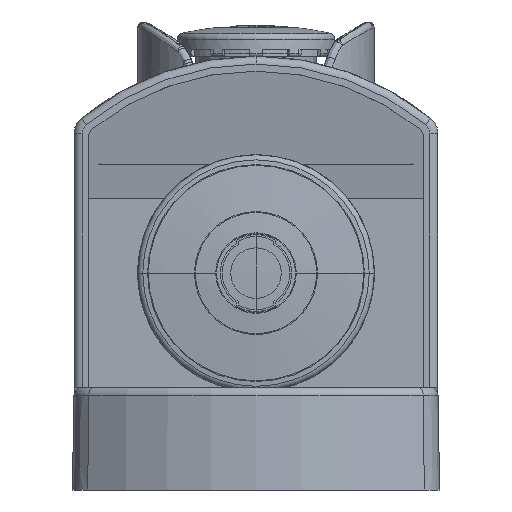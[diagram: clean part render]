
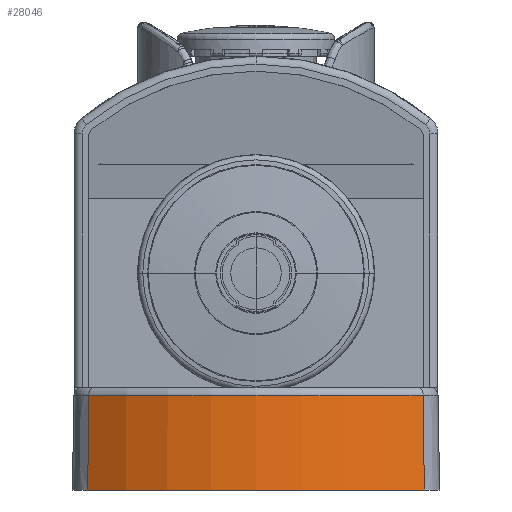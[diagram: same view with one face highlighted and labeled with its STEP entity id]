
A CAD part, left-side view. The second image highlights one B-rep face of the part: STEP entity #28046.
In plain terms, the highlighted conical face has half-angle 1 degrees and reference radius 70 mm.
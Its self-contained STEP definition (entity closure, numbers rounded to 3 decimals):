
#1454 = CIRCLE ( 'NONE', #20525, 70. ) ;
#2098 = DIRECTION ( 'NONE',  ( 1., 0., 0. ) ) ;
#4095 = EDGE_CURVE ( 'NONE', #76158, #10223, #40912, .T. ) ;
#5791 = CARTESIAN_POINT ( 'NONE',  ( -170., 0., 24.035 ) ) ;
#10223 = VERTEX_POINT ( 'NONE', #46278 ) ;
#10387 = ORIENTED_EDGE ( 'NONE', *, *, #4095, .T. ) ;
#11794 = DIRECTION ( 'NONE',  ( -1., 0., 0. ) ) ;
#13341 = EDGE_CURVE ( 'NONE', #44526, #76158, #45320, .T. ) ;
#16045 = CARTESIAN_POINT ( 'NONE',  ( -170., 0., 0. ) ) ;
#17879 = CARTESIAN_POINT ( 'NONE',  ( -225.163, -42.408, 24.035 ) ) ;
#20525 = AXIS2_PLACEMENT_3D ( 'NONE', #16045, #57476, #22003 ) ;
#22003 = DIRECTION ( 'NONE',  ( 1., 0., 0. ) ) ;
#23303 = VECTOR ( 'NONE', #46193, 1000. ) ;
#28046 = ADVANCED_FACE ( 'NONE', ( #62361 ), #70608, .T. ) ;
#28630 = CARTESIAN_POINT ( 'NONE',  ( -225.496, 42.664, 0. ) ) ;
#36860 = EDGE_LOOP ( 'NONE', ( #66021, #61864, #10387, #46377 ) ) ;
#37028 = CARTESIAN_POINT ( 'NONE',  ( -225.163, 42.408, 24.035 ) ) ;
#39309 = AXIS2_PLACEMENT_3D ( 'NONE', #55247, #72736, #2098 ) ;
#40912 = LINE ( 'NONE', #28630, #23303 ) ;
#43645 = CARTESIAN_POINT ( 'NONE',  ( -225.496, -42.664, 0. ) ) ;
#44365 = EDGE_CURVE ( 'NONE', #10223, #62825, #1454, .T. ) ;
#44526 = VERTEX_POINT ( 'NONE', #17879 ) ;
#45320 = CIRCLE ( 'NONE', #69160, 69.58 ) ;
#46193 = DIRECTION ( 'NONE',  ( -0.014, 0.011, -1. ) ) ;
#46278 = CARTESIAN_POINT ( 'NONE',  ( -225.496, 42.664, 0. ) ) ;
#46377 = ORIENTED_EDGE ( 'NONE', *, *, #44365, .T. ) ;
#47226 = DIRECTION ( 'NONE',  ( 0., 0., -1. ) ) ;
#53685 = VECTOR ( 'NONE', #73291, 1000. ) ;
#55247 = CARTESIAN_POINT ( 'NONE',  ( -170., 0., 0. ) ) ;
#57476 = DIRECTION ( 'NONE',  ( 0., 0., 1. ) ) ;
#61086 = LINE ( 'NONE', #67338, #53685 ) ;
#61864 = ORIENTED_EDGE ( 'NONE', *, *, #13341, .T. ) ;
#62361 = FACE_OUTER_BOUND ( 'NONE', #36860, .T. ) ;
#62825 = VERTEX_POINT ( 'NONE', #43645 ) ;
#66021 = ORIENTED_EDGE ( 'NONE', *, *, #74591, .F. ) ;
#67338 = CARTESIAN_POINT ( 'NONE',  ( -225.496, -42.664, 0. ) ) ;
#69160 = AXIS2_PLACEMENT_3D ( 'NONE', #5791, #47226, #11794 ) ;
#70608 = CONICAL_SURFACE ( 'NONE', #39309, 70., 0.017 ) ;
#72736 = DIRECTION ( 'NONE',  ( 0., 0., -1. ) ) ;
#73291 = DIRECTION ( 'NONE',  ( -0.014, -0.011, -1. ) ) ;
#74591 = EDGE_CURVE ( 'NONE', #44526, #62825, #61086, .T. ) ;
#76158 = VERTEX_POINT ( 'NONE', #37028 ) ;
